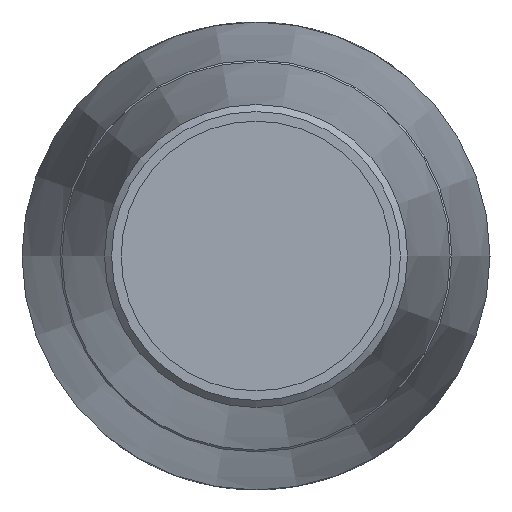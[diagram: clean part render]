
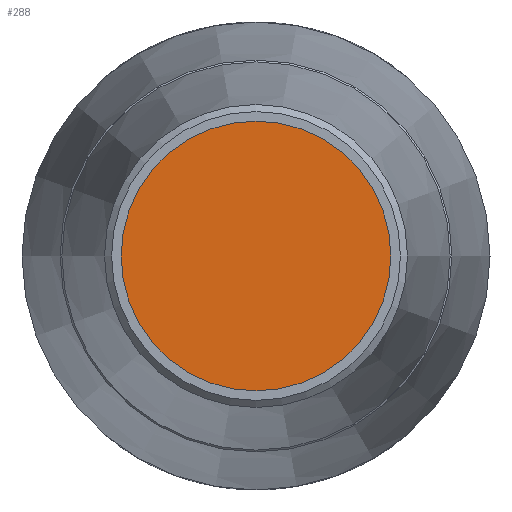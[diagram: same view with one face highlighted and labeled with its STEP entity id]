
A CAD part, left-side view. The second image highlights one B-rep face of the part: STEP entity #288.
In plain terms, the highlighted planar face has unit normal (-1, 0, 0).
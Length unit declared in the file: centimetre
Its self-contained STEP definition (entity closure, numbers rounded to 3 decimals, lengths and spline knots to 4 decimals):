
#42=PLANE('',#323);
#73=FACE_OUTER_BOUND('',#104,.T.);
#104=EDGE_LOOP('',(#210));
#132=CIRCLE('',#322,4.15);
#148=VERTEX_POINT('',#455);
#172=EDGE_CURVE('',#148,#148,#132,.T.);
#210=ORIENTED_EDGE('',*,*,#172,.T.);
#288=ADVANCED_FACE('',(#73),#42,.T.);
#322=AXIS2_PLACEMENT_3D('',#456,#383,#384);
#323=AXIS2_PLACEMENT_3D('',#457,#385,#386);
#383=DIRECTION('center_axis',(-1.,0.,0.));
#384=DIRECTION('ref_axis',(0.,0.,1.));
#385=DIRECTION('center_axis',(-1.,0.,0.));
#386=DIRECTION('ref_axis',(0.,0.,1.));
#455=CARTESIAN_POINT('',(-39.2,-4.15,0.));
#456=CARTESIAN_POINT('Origin',(-39.2,0.,0.));
#457=CARTESIAN_POINT('Origin',(-39.2,0.,0.));
